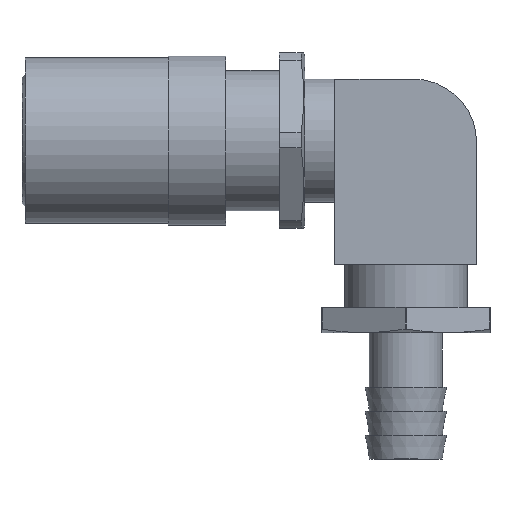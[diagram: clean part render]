
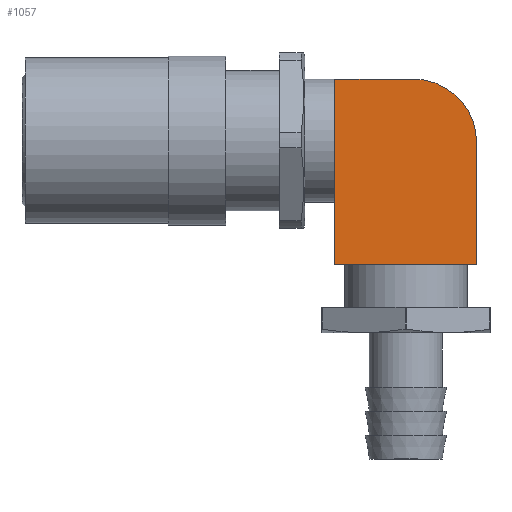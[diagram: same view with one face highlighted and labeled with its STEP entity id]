
A CAD part, top view. The second image highlights one B-rep face of the part: STEP entity #1057.
In plain terms, the highlighted planar face has unit normal (0, 0, 1).
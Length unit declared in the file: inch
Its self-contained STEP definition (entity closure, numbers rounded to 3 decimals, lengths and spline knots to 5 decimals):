
#32=PLANE('',#1187);
#111=LINE('',#1879,#167);
#115=LINE('',#1887,#171);
#118=LINE('',#1895,#174);
#121=LINE('',#1901,#177);
#167=VECTOR('',#1435,39.37008);
#171=VECTOR('',#1441,39.37008);
#174=VECTOR('',#1448,39.37008);
#177=VECTOR('',#1453,39.37008);
#225=CIRCLE('',#1186,0.45);
#404=ORIENTED_EDGE('',*,*,#634,.T.);
#405=ORIENTED_EDGE('',*,*,#638,.T.);
#406=ORIENTED_EDGE('',*,*,#642,.T.);
#407=ORIENTED_EDGE('',*,*,#645,.T.);
#408=ORIENTED_EDGE('',*,*,#647,.T.);
#634=EDGE_CURVE('',#750,#749,#111,.T.);
#638=EDGE_CURVE('',#749,#752,#115,.T.);
#642=EDGE_CURVE('',#752,#755,#118,.T.);
#645=EDGE_CURVE('',#755,#757,#121,.T.);
#647=EDGE_CURVE('',#757,#750,#225,.T.);
#749=VERTEX_POINT('',#1878);
#750=VERTEX_POINT('',#1880);
#752=VERTEX_POINT('',#1886);
#755=VERTEX_POINT('',#1894);
#757=VERTEX_POINT('',#1900);
#845=EDGE_LOOP('',(#404,#405,#406,#407,#408));
#947=FACE_BOUND('',#845,.T.);
#1057=ADVANCED_FACE('',(#947),#32,.T.);
#1186=AXIS2_PLACEMENT_3D('',#1904,#1458,#1459);
#1187=AXIS2_PLACEMENT_3D('',#1905,#1460,#1461);
#1435=DIRECTION('',(-1.,0.,0.));
#1441=DIRECTION('',(0.,-1.,0.));
#1448=DIRECTION('',(1.,0.,0.));
#1453=DIRECTION('',(0.,1.,0.));
#1458=DIRECTION('',(0.,0.,1.));
#1459=DIRECTION('',(1.,0.,0.));
#1460=DIRECTION('',(0.,0.,1.));
#1461=DIRECTION('',(1.,0.,0.));
#1878=CARTESIAN_POINT('',(2.206,0.4375,0.5));
#1879=CARTESIAN_POINT('',(2.766,0.4375,0.5));
#1880=CARTESIAN_POINT('',(2.766,0.4375,0.5));
#1886=CARTESIAN_POINT('',(2.206,-0.8825,0.5));
#1887=CARTESIAN_POINT('',(2.206,0.4375,0.5));
#1894=CARTESIAN_POINT('',(3.216,-0.8825,0.5));
#1895=CARTESIAN_POINT('',(2.206,-0.8825,0.5));
#1900=CARTESIAN_POINT('',(3.216,-0.0125,0.5));
#1901=CARTESIAN_POINT('',(3.216,-0.8825,0.5));
#1904=CARTESIAN_POINT('',(2.766,-0.0125,0.5));
#1905=CARTESIAN_POINT('',(2.766,-0.0125,0.5));
